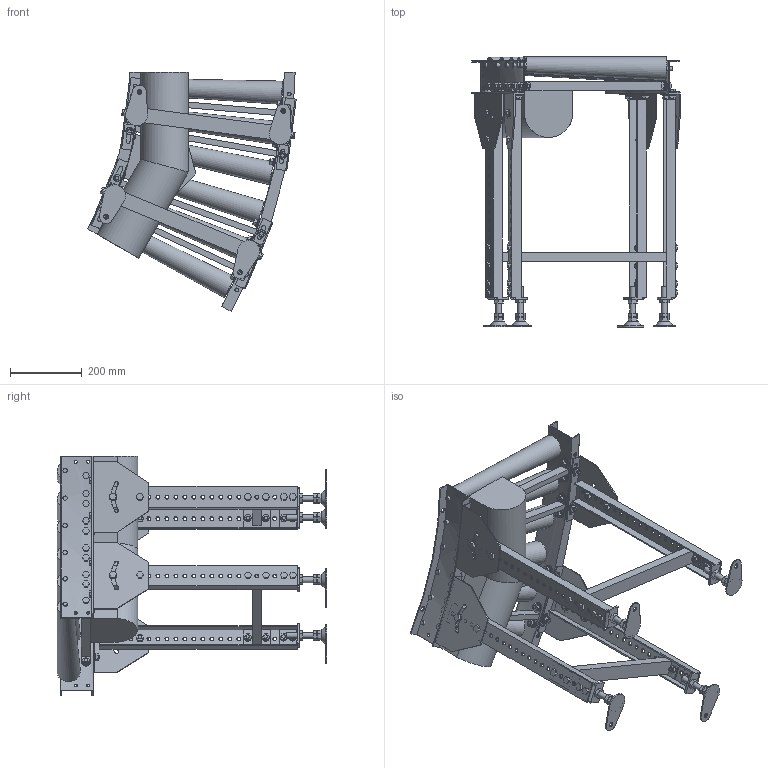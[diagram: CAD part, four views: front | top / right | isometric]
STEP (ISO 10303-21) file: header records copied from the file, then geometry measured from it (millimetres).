
FILE_DESCRIPTION( (''), '2;1');
FILE_NAME ('WEB-MCD-50-400-100-30°-C9.stp','2026-02-20T12:11:41',(''),(''),'spGate 20.6.2 (****-****-****-****)','','');
FILE_SCHEMA (('AUTOMOTIVE_DESIGN'));
Length unit declared in the file: millimetre
Products named in the file (28): WEB-MCD-50-400-100-30_-C9; TEMP_X_T-prt0; TEMP_X_T-prt1; TEMP_X_T-prt2; TEMP_X_T-prt3; TEMP_X_T-prt4; TEMP_X_T-prt5; TEMP_X_T-prt6; TEMP_X_T-prt7; TEMP_X_T-prt8; TEMP_X_T-prt9; TEMP_X_T-prt10; TEMP_X_T-prt11; TEMP_X_T-prt12; TEMP_X_T-prt13; TEMP_X_T-prt14; TEMP_X_T-prt15; TEMP_X_T-prt16; TEMP_X_T-prt17; TEMP_X_T-prt18; TEMP_X_T-prt19; TEMP_X_T-prt20; TEMP_X_T-prt21; TEMP_X_T-prt22; TEMP_X_T-prt23; TEMP_X_T-prt24; TEMP_X_T-prt25; TEMP_X_T-prt26
Assembly tree (27 placements, depth 2):
  WEB-MCD-50-400-100-30_-C9
    TEMP_X_T-prt0
    TEMP_X_T-prt1
    TEMP_X_T-prt2
    TEMP_X_T-prt3
    TEMP_X_T-prt4
    TEMP_X_T-prt5
    TEMP_X_T-prt6
    TEMP_X_T-prt7
    TEMP_X_T-prt8
    TEMP_X_T-prt9
    TEMP_X_T-prt10
    TEMP_X_T-prt11
    TEMP_X_T-prt12
    TEMP_X_T-prt13
    TEMP_X_T-prt14
    TEMP_X_T-prt15
    TEMP_X_T-prt16
    TEMP_X_T-prt17
    TEMP_X_T-prt18
    TEMP_X_T-prt19
    TEMP_X_T-prt20
    TEMP_X_T-prt21
    TEMP_X_T-prt22
    TEMP_X_T-prt23
    TEMP_X_T-prt24
    TEMP_X_T-prt25
    TEMP_X_T-prt26
Bounding box: 579.59 x 750.24 x 665 mm (x, y, z)
Volume: 17676842.5 mm3; surface area: 2214850.8 mm2
Topology: 27 solids, 47 shells, 2179 faces, 5271 edges, 3386 vertices
Faces by surface type: plane 1828, cylinder 341, bspline 10
Full cylindrical faces by diameter (mm): 8.5 x8, 10 x60, 10.5 x92, 11 x2, 12 x12, 13 x4, 14 x5, 16 x4, 18.4 x42, 18.5 x8, 21 x30
Entity records: 109937 total; most frequent: CARTESIAN_POINT 13761, DIRECTION 10931, ORIENTED_EDGE 10542, COLOUR_RGB 7477, PRESENTATION_STYLE_ASSIGNMENT 7477, STYLED_ITEM 7477, EDGE_CURVE 5271, DRAUGHTING_PRE_DEFINED_CURVE_FONT 5271
